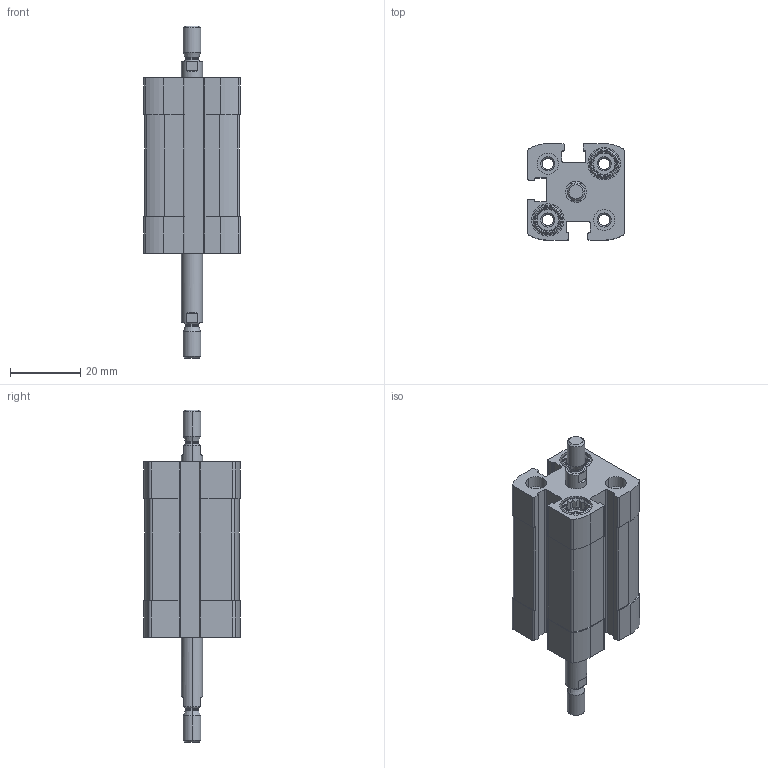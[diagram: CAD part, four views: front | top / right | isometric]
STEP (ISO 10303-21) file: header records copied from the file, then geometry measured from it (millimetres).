
FILE_DESCRIPTION (( 'STEP AP203' ), '1' );
FILE_NAME ('CCN12-15-P.STEP', '2020-06-22T18:34:11', ( '' ), ( '' ), 'SwSTEP 2.0', 'SolidWorks 2019', '' );
FILE_SCHEMA (( 'CONFIG_CONTROL_DESIGN' ));
Length unit declared in the file: millimetre
Products named in the file (1): CCN12-15-P
Bounding box: 27.5 x 27.5 x 94.5 mm (x, y, z)
Volume: 28061.3 mm3; surface area: 15461.4 mm2
Topology: 2 solids, 2 shells, 384 faces, 976 edges, 632 vertices
Faces by surface type: plane 192, cylinder 140, cone 44, torus 8
Entity records: 11783 total; most frequent: CARTESIAN_POINT 2293, DIRECTION 1986, ORIENTED_EDGE 1952, EDGE_CURVE 976, AXIS2_PLACEMENT_3D 725, VERTEX_POINT 632, LINE 536, VECTOR 536
